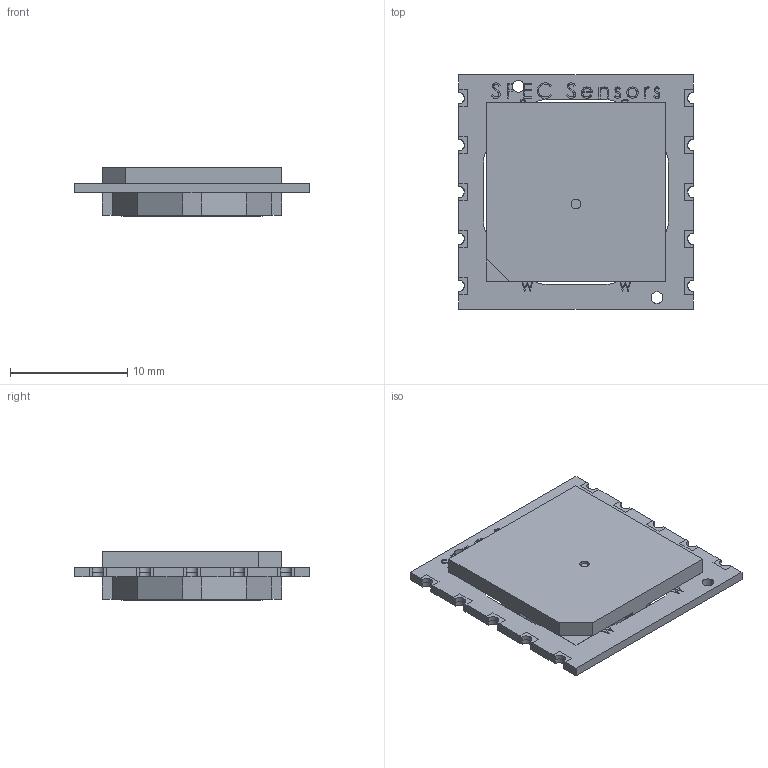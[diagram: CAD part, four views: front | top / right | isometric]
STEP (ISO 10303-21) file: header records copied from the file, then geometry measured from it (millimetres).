
FILE_DESCRIPTION (( 'STEP AP214' ), '1' );
FILE_NAME ('110-109 STEP.STEP', '2023-06-20T19:51:04', ( '' ), ( '' ), 'SwSTEP 2.0', 'SolidWorks 2017', '' );
FILE_SCHEMA (( 'AUTOMOTIVE_DESIGN' ));
Length unit declared in the file: millimetre
Products named in the file (4): 100-102 STEP; 110-109 STEP; Zebra Barcode; 981-014
Assembly tree (3 placements, depth 2):
  110-109 STEP
    100-102 STEP
    Zebra Barcode
    981-014
Bounding box: 20.01 x 20 x 4.16 mm (x, y, z)
Volume: 850.7 mm3; surface area: 1588.5 mm2
Topology: 32 solids, 32 shells, 579 faces, 1546 edges, 1036 vertices
Faces by surface type: plane 360, bspline 123, cylinder 96
Full cylindrical faces by diameter (mm): 0.75 x24, 0.8 x1, 1 x10, 12 x1
Entity records: 27425 total; most frequent: CARTESIAN_POINT 9278, ORIENTED_EDGE 2988, DIRECTION 2364, EDGE_CURVE 1494, LINE 1056, VECTOR 1056, VERTEX_POINT 1020, EDGE_LOOP 696
